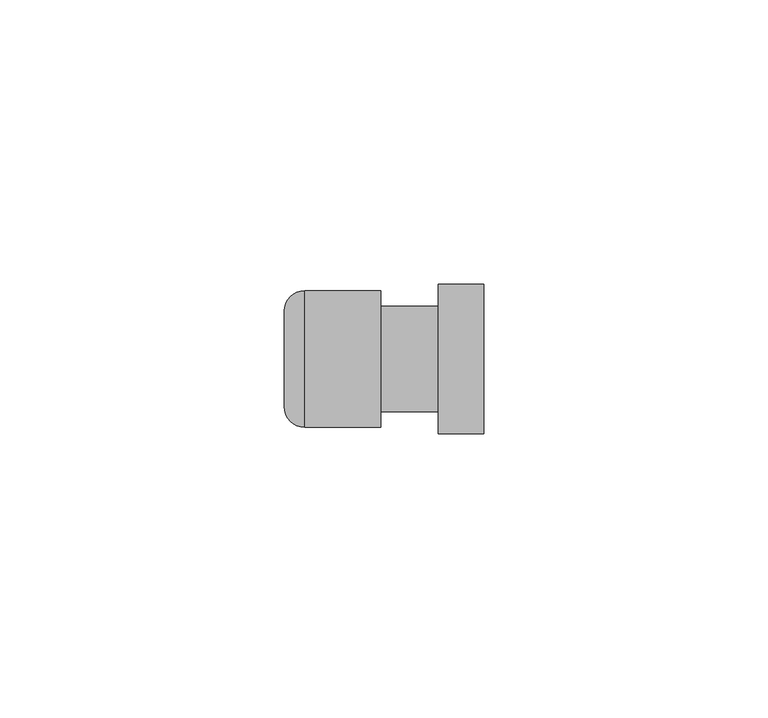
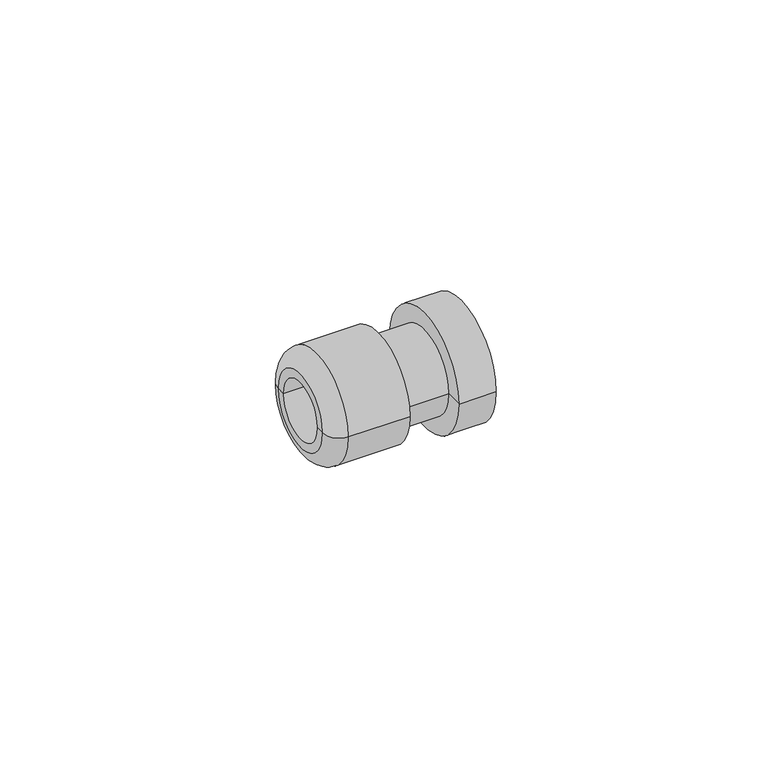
"""IFC4 building model written with IfcOpenShell, lengths in millimetres: cable carrier fitting geometry."""

from ifc_helpers import new_model, si_unit, point, frame, origin, place, context, project, spatial, polyline, circle_curve, ellipse_curve, trimmed, source, transform, mapped, element, save
from ifc_brep_helpers import plane_surface, cylinder_surface, revolved_surface, advanced_brep


def cable_carrier_fitting_eb64f451(model_context):
    return source(origin(), model_context, "Body", "AdvancedBrep", [
        advanced_brep(
        [(0.0, -12.0, 0.0), (0.0, 12.0, 0.0), (0.0, 9.25, 0.0), (0.0, -9.25, 0.0), (-13.339955, -12.0, 0.0), (-13.339955, 12.0, 0.0), (-16.9, -8.439955, 0.0), (-16.9, 8.439955, 0.0), (-16.9, -6.5, 0.0), (-16.9, 6.5, 0.0), (18.1, -6.5, 0.0), (18.1, 6.5, 0.0), (18.1, -13.1, 0.0), (18.1, 13.1, 0.0), (10.1, -13.1, 0.0), (10.1, 13.1, 0.0), (10.1, -9.25, 0.0), (10.1, 9.25, 0.0)],
        [
            (0, 1, circle_curve(frame((0.0, 0.0, 0.0), z_axis=(1.0, 0.0, 0.0), x_axis=(0.0, 1.0, 0.0)), 12.0)),
            (1, 2),
            (2, 3, circle_curve(frame((0.0, 0.0, 0.0), z_axis=(-1.0, 0.0, 0.0), x_axis=(0.0, 1.0, 0.0)), 9.25)),
            (3, 0),
            (1, 0, circle_curve(frame((0.0, 0.0, 0.0), z_axis=(1.0, 0.0, 0.0), x_axis=(0.0, 1.0, 0.0)), 12.0)),
            (3, 2, circle_curve(frame((0.0, 0.0, 0.0), z_axis=(-1.0, 0.0, 0.0), x_axis=(0.0, 1.0, 0.0)), 9.25)),
            (4, 5, circle_curve(frame((-13.339955, 0.0, 0.0), z_axis=(1.0, 0.0, 0.0), x_axis=(0.0, 1.0, 0.0)), 12.0)),
            (5, 1),
            (0, 4),
            (5, 4, circle_curve(frame((-13.339955, 0.0, 0.0), z_axis=(1.0, 0.0, 0.0), x_axis=(0.0, 1.0, 0.0)), 12.0)),
            (6, 7, circle_curve(frame((-16.9, 0.0, 0.0), z_axis=(1.0, 0.0, 0.0), x_axis=(0.0, 1.0, 0.0)), 8.439955)),
            (7, 5, circle_curve(frame((-13.339955, 8.439955, 0.0), z_axis=(0.0, 0.0, -1.0), x_axis=(1.0, 0.0, 0.0)), 3.560045)),
            (4, 6, circle_curve(frame((-13.339955, -8.439955, 0.0), z_axis=(0.0, 0.0, -1.0), x_axis=(1.0, 0.0, 0.0)), 3.560045)),
            (7, 6, circle_curve(frame((-16.9, 0.0, 0.0), z_axis=(1.0, 0.0, 0.0), x_axis=(0.0, 1.0, 0.0)), 8.439955)),
            (8, 9, circle_curve(frame((-16.9, 0.0, 0.0), z_axis=(1.0, 0.0, 0.0), x_axis=(0.0, 1.0, 0.0)), 6.5)),
            (9, 7),
            (6, 8),
            (9, 8, circle_curve(frame((-16.9, 0.0, 0.0), z_axis=(1.0, 0.0, 0.0), x_axis=(0.0, 1.0, 0.0)), 6.5)),
            (10, 11, circle_curve(frame((18.1, 0.0, 0.0), z_axis=(1.0, 0.0, 0.0), x_axis=(0.0, 1.0, 0.0)), 6.5)),
            (11, 9),
            (8, 10),
            (11, 10, circle_curve(frame((18.1, 0.0, 0.0), z_axis=(1.0, 0.0, 0.0), x_axis=(0.0, 1.0, 0.0)), 6.5)),
            (12, 13, circle_curve(frame((18.1, 0.0, 0.0), z_axis=(1.0, 0.0, 0.0), x_axis=(0.0, 1.0, 0.0)), 13.1)),
            (13, 11),
            (10, 12),
            (13, 12, circle_curve(frame((18.1, 0.0, 0.0), z_axis=(1.0, 0.0, 0.0), x_axis=(0.0, 1.0, 0.0)), 13.1)),
            (14, 15, circle_curve(frame((10.1, 0.0, 0.0), z_axis=(1.0, 0.0, 0.0), x_axis=(0.0, 1.0, 0.0)), 13.1)),
            (15, 13),
            (12, 14),
            (15, 14, circle_curve(frame((10.1, 0.0, 0.0), z_axis=(1.0, 0.0, 0.0), x_axis=(0.0, 1.0, 0.0)), 13.1)),
            (16, 17, circle_curve(frame((10.1, 0.0, 0.0), z_axis=(1.0, 0.0, 0.0), x_axis=(0.0, 1.0, 0.0)), 9.25)),
            (17, 15),
            (14, 16),
            (17, 16, circle_curve(frame((10.1, 0.0, 0.0), z_axis=(1.0, 0.0, 0.0), x_axis=(0.0, 1.0, 0.0)), 9.25)),
            (2, 17),
            (16, 3),
        ],
        [
            plane_surface(frame((0.0, 0.0, 0.0), z_axis=(1.0, 0.0, 0.0), x_axis=(0.0, 1.0, 0.0))),
            cylinder_surface(frame((1542.5, 0.0, 0.0), z_axis=(-1.0, 0.0, 0.0), x_axis=(0.0, 1.0, 0.0)), 12.0),
            revolved_surface(trimmed(ellipse_curve(frame((-13.339955, 8.439955, 0.0), z_axis=(0.0, 0.0, 1.0), x_axis=(1.0, 0.0, 0.0)), 3.560045, 3.560045), [point((-13.339955, 12.0, 0.0))], [point((-16.9, 8.439955, 0.0))], True, "CARTESIAN"), (1542.5, 0.0, 0.0), (-1.0, 0.0, 0.0)),
            plane_surface(frame((-16.9, 0.0, 0.0), z_axis=(-1.0, 0.0, 0.0), x_axis=(0.0, 1.0, 0.0))),
            revolved_surface(polyline([(-16.90000000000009, 6.5, 0.0), (18.09999999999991, 6.5, 0.0)]), (1542.5, 0.0, 0.0), (-1.0, 0.0, 0.0)),
            plane_surface(frame((18.1, 0.0, 0.0), z_axis=(1.0, 0.0, 0.0), x_axis=(0.0, 1.0, 0.0))),
            cylinder_surface(frame((1542.5, 0.0, 0.0), z_axis=(-1.0, 0.0, 0.0), x_axis=(0.0, 1.0, 0.0)), 13.1),
            plane_surface(frame((10.1, 0.0, 0.0), z_axis=(-1.0, 0.0, 0.0), x_axis=(0.0, 1.0, 0.0))),
            cylinder_surface(frame((1542.5, 0.0, 0.0), z_axis=(-1.0, 0.0, 0.0), x_axis=(0.0, 1.0, 0.0)), 9.25),
        ],
        [
            (0, [[1, 2, 3, 4]]),
            (0, [[5, -4, 6, -2]]),
            (1, [[7, 8, -1, 9]]),
            (1, [[10, -9, -5, -8]]),
            (2, [[11, 12, -7, 13]]),
            (2, [[14, -13, -10, -12]]),
            (3, [[15, 16, -11, 17]]),
            (3, [[18, -17, -14, -16]]),
            (4, [[19, 20, -15, 21]]),
            (4, [[22, -21, -18, -20]]),
            (5, [[23, 24, -19, 25]]),
            (5, [[26, -25, -22, -24]]),
            (6, [[27, 28, -23, 29]]),
            (6, [[30, -29, -26, -28]]),
            (7, [[31, 32, -27, 33]]),
            (7, [[34, -33, -30, -32]]),
            (8, [[-3, 35, -31, 36]]),
            (8, [[-6, -36, -34, -35]]),
        ],
    ),
    ])


if __name__ == "__main__":
    model = new_model("IFC4")
    model_context = context("Model", 3, world=origin())
    ifc_project = project(units=[si_unit("LENGTHUNIT", "METRE", prefix="MILLI")], contexts=[model_context])
    site = spatial("IfcSite", under=ifc_project)
    building = spatial("IfcBuilding", under=site)
    placement = place(None, origin())
    cable_carrier_fitting_shape = cable_carrier_fitting_eb64f451(model_context)
    element("IfcCableCarrierFitting", 1, at=placement, inside=building, context=model_context, shape_type="MappedRepresentation", body=[
        mapped(cable_carrier_fitting_shape, transform((0.0, 0.0, 0.0), x_axis=(1.0, 0.0, 0.0), y_axis=(0.0, 1.0, 0.0), z_axis=(0.0, 0.0, 1.0))),
    ])
    save(model, "model.ifc")
